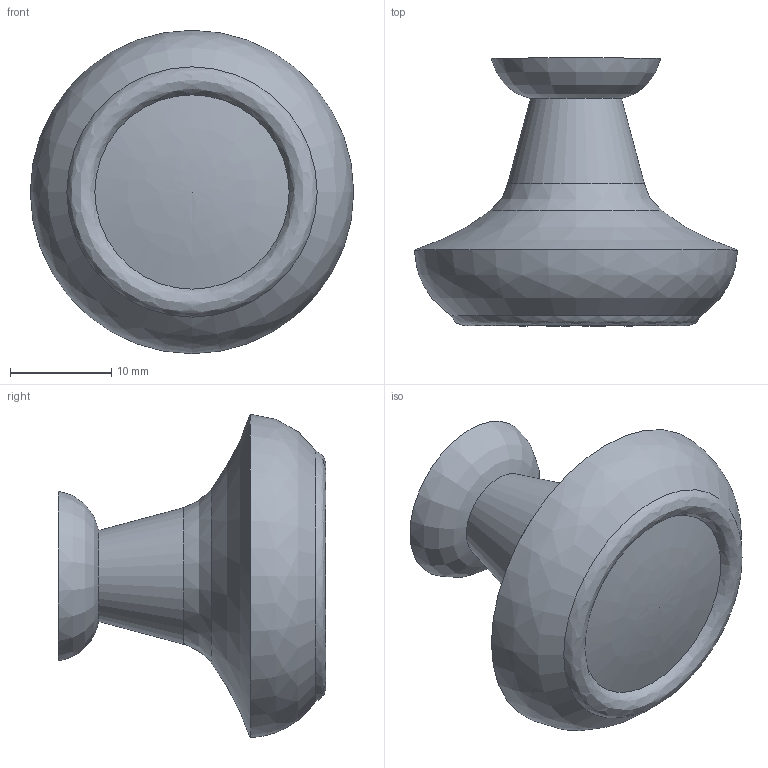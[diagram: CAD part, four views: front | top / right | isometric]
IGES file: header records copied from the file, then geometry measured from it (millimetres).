
Start section: Data from Parasolid IGES Translator 15.0.47, Copyright(c) 2006 Siemens P LM Software. All Rights Reserved.
Global section: file name: 9113186.igs; native system:  By UGS Corp.; preprocessor: XPlus GENERIC/IGES 3.0; author: Noname; organization: Noname; date: 20140122.100926; units: millimetre
Bounding box: 32 x 26.5 x 32 mm (x, y, z)
Surface area: 2992 mm2 (no closed solid volume)
Topology: 0 solids, 0 shells, 13 faces, 45 edges, 33 vertices
Faces by surface type: revolution 10, extrusion 3
